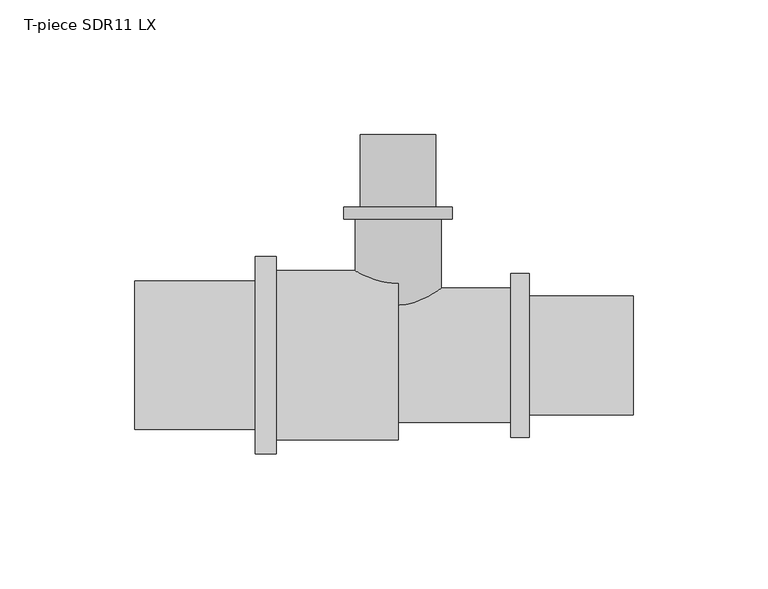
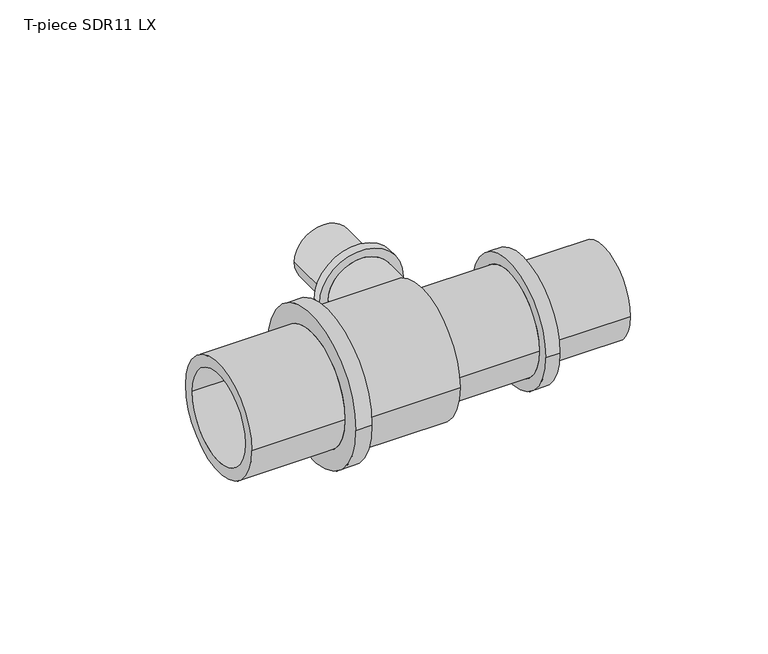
"""IFC4 building model written with IfcOpenShell, lengths in millimetres: pipe fitting geometry, T-piece SDR11 LX : T-piece LX SDR11 LX."""

from ifc_helpers import new_model, si_unit, point, frame, origin, place, context, project, spatial, polyline, circle_curve, ellipse_curve, trimmed, source, transform, mapped, element, save
from ifc_brep_helpers import plane_surface, cylinder_surface, revolved_surface, advanced_brep


def t_piece_sdr11_lx_63dd1f1d(model_context):
    return source(origin(), model_context, "Body", "AdvancedBrep", [
        advanced_brep(
        [(16.0, 1.1873608, 0.0), (-16.0, 1.1873608, 0.0), (-16.0, 50.6, 0.0), (16.0, 50.6, 0.0), (11.0, 82.0, 0.0), (-11.0, 82.0, 0.0), (-11.0, 0.0, 0.0), (11.0, 0.0, 0.0), (14.05, 55.0, 0.0), (-14.05, 55.0, 0.0), (-14.05, 82.0, 0.0), (14.05, 82.0, 0.0), (20.1, 50.6, 0.0), (-20.1, 50.6, 0.0), (-20.1, 55.0, 0.0), (20.1, 55.0, 0.0)],
        [
            (0, 1, circle_curve(frame((0.0, 1.1873608, 0.0), z_axis=(0.0, 1.0, 0.0), x_axis=(-1.0, 0.0, 0.0)), 16.0)),
            (1, 2),
            (2, 3, circle_curve(frame((0.0, 50.6, 0.0), z_axis=(0.0, -1.0, 0.0), x_axis=(-1.0, 0.0, 0.0)), 16.0)),
            (3, 0),
            (4, 5, circle_curve(frame((0.0, 82.0, 0.0), z_axis=(0.0, 1.0, 0.0), x_axis=(-1.0, 0.0, 0.0)), 11.0)),
            (5, 6),
            (6, 7, circle_curve(frame((0.0, 0.0, 0.0), z_axis=(0.0, -1.0, 0.0), x_axis=(-1.0, 0.0, 0.0)), 11.0)),
            (7, 4),
            (8, 9, circle_curve(frame((0.0, 55.0, 0.0), z_axis=(0.0, 1.0, 0.0), x_axis=(-1.0, 0.0, 0.0)), 14.05)),
            (9, 10),
            (10, 11, circle_curve(frame((0.0, 82.0, 0.0), z_axis=(0.0, -1.0, 0.0), x_axis=(-1.0, 0.0, 0.0)), 14.05)),
            (11, 8),
            (12, 13, circle_curve(frame((0.0, 50.6, 0.0), z_axis=(0.0, 1.0, 0.0), x_axis=(-1.0, 0.0, 0.0)), 20.1)),
            (13, 14),
            (14, 15, circle_curve(frame((0.0, 55.0, 0.0), z_axis=(0.0, -1.0, 0.0), x_axis=(-1.0, 0.0, 0.0)), 20.1)),
            (15, 12),
            (12, 13, circle_curve(frame((0.0, 50.6, 0.0), z_axis=(0.0, -1.0, 0.0), x_axis=(1.0, 0.0, 0.0)), 20.1)),
            (2, 3, circle_curve(frame((0.0, 50.6, 0.0), z_axis=(0.0, 1.0, 0.0), x_axis=(1.0, 0.0, 0.0)), 16.0)),
            (1, 0, circle_curve(frame((0.0, 1.1873608, 0.0), z_axis=(0.0, 1.0, 0.0), x_axis=(1.0, 0.0, 0.0)), 16.0)),
            (5, 4, circle_curve(frame((0.0, 82.0, 0.0), z_axis=(0.0, 1.0, 0.0), x_axis=(1.0, 0.0, 0.0)), 11.0)),
            (7, 6, circle_curve(frame((0.0, 0.0, 0.0), z_axis=(0.0, -1.0, 0.0), x_axis=(1.0, 0.0, 0.0)), 11.0)),
            (10, 11, circle_curve(frame((0.0, 82.0, 0.0), z_axis=(0.0, 1.0, 0.0), x_axis=(1.0, 0.0, 0.0)), 14.05)),
            (9, 8, circle_curve(frame((0.0, 55.0, 0.0), z_axis=(0.0, 1.0, 0.0), x_axis=(1.0, 0.0, 0.0)), 14.05)),
            (14, 15, circle_curve(frame((0.0, 55.0, 0.0), z_axis=(0.0, 1.0, 0.0), x_axis=(1.0, 0.0, 0.0)), 20.1)),
            (6, 1, circle_curve(frame((-6.2462802, 31.1392381, 0.0), z_axis=(0.0, 0.0, -1.0), x_axis=(0.0, -1.0, 0.0)), 31.5)),
            (0, 7, circle_curve(frame((6.2462802, 31.1392381, 0.0), z_axis=(0.0, 0.0, -1.0), x_axis=(0.0, -1.0, 0.0)), 31.5)),
        ],
        [
            cylinder_surface(frame((0.0, 0.0, 0.0), z_axis=(0.0, -1.0, 0.0), x_axis=(-1.0, 0.0, 0.0)), 16.0),
            revolved_surface(polyline([(-11.0, 0.0, 0.0), (-11.0, 82.0, 0.0)]), (0.0, 0.0, 0.0), (0.0, -1.0, 0.0)),
            cylinder_surface(frame((0.0, 0.0, 0.0), z_axis=(0.0, -1.0, 0.0), x_axis=(-1.0, 0.0, 0.0)), 14.05),
            cylinder_surface(frame((0.0, 0.0, 0.0), z_axis=(0.0, -1.0, 0.0), x_axis=(-1.0, 0.0, 0.0)), 20.1),
            plane_surface(frame((0.0, 50.6, 0.0), z_axis=(0.0, -1.0, 0.0), x_axis=(1.0, 0.0, 0.0))),
            cylinder_surface(frame((0.0, 0.0, 0.0), z_axis=(0.0, -1.0, 0.0), x_axis=(1.0, 0.0, 0.0)), 16.0),
            revolved_surface(polyline([(11.0, 0.0, 0.0), (11.0, 82.0, 0.0)]), (0.0, 0.0, 0.0), (0.0, -1.0, 0.0)),
            plane_surface(frame((0.0, 82.0, 0.0), z_axis=(0.0, 1.0, 0.0), x_axis=(1.0, 0.0, 0.0))),
            cylinder_surface(frame((0.0, 0.0, 0.0), z_axis=(0.0, -1.0, 0.0), x_axis=(1.0, 0.0, 0.0)), 14.05),
            plane_surface(frame((0.0, 55.0, 0.0), z_axis=(0.0, 1.0, 0.0), x_axis=(1.0, 0.0, 0.0))),
            cylinder_surface(frame((0.0, 0.0, 0.0), z_axis=(0.0, -1.0, 0.0), x_axis=(1.0, 0.0, 0.0)), 20.1),
            revolved_surface(trimmed(ellipse_curve(frame((-6.2462802, 31.1392381, 0.0), z_axis=(0.0, 0.0, 1.0), x_axis=(0.0, -1.0, 0.0)), 31.5, 31.5), [point((-16.0, 1.1873608, 0.0))], [point((-11.0, 0.0, 0.0))], True, "CARTESIAN"), (0.0, 0.0, 0.0), (0.0, -1.0, 0.0)),
            revolved_surface(trimmed(ellipse_curve(frame((6.2462802, 31.1392381, 0.0), z_axis=(0.0, 0.0, -1.0), x_axis=(0.0, -1.0, 0.0)), 31.5, 31.5), [point((16.0, 1.1873608, 0.0))], [point((11.0, 0.0, 0.0))], True, "CARTESIAN"), (0.0, 0.0, 0.0), (0.0, -1.0, 0.0)),
        ],
        [
            (0, [[1, 2, 3, 4]]),
            (1, [[5, 6, 7, 8]]),
            (2, [[9, 10, 11, 12]]),
            (3, [[13, 14, 15, 16]]),
            (4, [[17, -13], [18, -3]]),
            (5, [[19, -4, -18, -2]]),
            (6, [[20, -8, 21, -6]]),
            (7, [[22, -11], [-20, -5]]),
            (8, [[23, -12, -22, -10]]),
            (9, [[24, -15], [-23, -9]]),
            (10, [[-17, -16, -24, -14]]),
            (11, [[-7, 25, -1, 26]]),
            (12, [[-21, -26, -19, -25]]),
        ],
    ),
        advanced_brep(
        [(41.8, 25.0, 0.0), (41.8, -25.0, 0.0), (0.0, -25.0, 0.0), (0.0, 25.0, 0.0), (0.0, 17.6, 0.0), (0.0, -17.6, 0.0), (87.3, -17.6, 0.0), (87.3, 17.6, 0.0), (87.3, 22.1, 0.0), (87.3, -22.1, 0.0), (48.6, -22.1, 0.0), (48.6, 22.1, 0.0), (48.6, 30.45, 0.0), (48.6, -30.45, 0.0), (41.8, -30.45, 0.0), (41.8, 30.45, 0.0)],
        [
            (0, 1, circle_curve(frame((41.8, 0.0, 0.0), z_axis=(-1.0, 0.0, 0.0), x_axis=(0.0, -1.0, 0.0)), 25.0)),
            (1, 2),
            (2, 3, circle_curve(frame((0.0, 0.0, 0.0), z_axis=(1.0, 0.0, 0.0), x_axis=(0.0, -1.0, 0.0)), 25.0)),
            (3, 0),
            (4, 5, circle_curve(frame((0.0, 0.0, 0.0), z_axis=(-1.0, 0.0, 0.0), x_axis=(0.0, -1.0, 0.0)), 17.6)),
            (5, 6),
            (6, 7, circle_curve(frame((87.3, 0.0, 0.0), z_axis=(1.0, 0.0, 0.0), x_axis=(0.0, -1.0, 0.0)), 17.6)),
            (7, 4),
            (8, 9, circle_curve(frame((87.3, 0.0, 0.0), z_axis=(-1.0, 0.0, 0.0), x_axis=(0.0, -1.0, 0.0)), 22.1)),
            (9, 10),
            (10, 11, circle_curve(frame((48.6, 0.0, 0.0), z_axis=(1.0, 0.0, 0.0), x_axis=(0.0, -1.0, 0.0)), 22.1)),
            (11, 8),
            (12, 13, circle_curve(frame((48.6, 0.0, 0.0), z_axis=(-1.0, 0.0, 0.0), x_axis=(0.0, -1.0, 0.0)), 30.45)),
            (13, 14),
            (14, 15, circle_curve(frame((41.8, 0.0, 0.0), z_axis=(1.0, 0.0, 0.0), x_axis=(0.0, -1.0, 0.0)), 30.45)),
            (15, 12),
            (14, 15, circle_curve(frame((41.8, 0.0, 0.0), z_axis=(-1.0, 0.0, 0.0), x_axis=(0.0, 1.0, 0.0)), 30.45)),
            (0, 1, circle_curve(frame((41.8, 0.0, 0.0), z_axis=(1.0, 0.0, 0.0), x_axis=(0.0, 1.0, 0.0)), 25.0)),
            (3, 2, circle_curve(frame((0.0, 0.0, 0.0), z_axis=(1.0, 0.0, 0.0), x_axis=(0.0, 1.0, 0.0)), 25.0)),
            (4, 5, circle_curve(frame((0.0, 0.0, 0.0), z_axis=(1.0, 0.0, 0.0), x_axis=(0.0, 1.0, 0.0)), 17.6)),
            (7, 6, circle_curve(frame((87.3, 0.0, 0.0), z_axis=(1.0, 0.0, 0.0), x_axis=(0.0, 1.0, 0.0)), 17.6)),
            (8, 9, circle_curve(frame((87.3, 0.0, 0.0), z_axis=(1.0, 0.0, 0.0), x_axis=(0.0, 1.0, 0.0)), 22.1)),
            (11, 10, circle_curve(frame((48.6, 0.0, 0.0), z_axis=(1.0, 0.0, 0.0), x_axis=(0.0, 1.0, 0.0)), 22.1)),
            (12, 13, circle_curve(frame((48.6, 0.0, 0.0), z_axis=(1.0, 0.0, 0.0), x_axis=(0.0, 1.0, 0.0)), 30.45)),
        ],
        [
            cylinder_surface(frame((0.0, 0.0, 0.0), z_axis=(1.0, 0.0, 0.0), x_axis=(0.0, -1.0, 0.0)), 25.0),
            revolved_surface(polyline([(87.3, -17.6, 0.0), (0.0, -17.6, 0.0)]), (0.0, 0.0, 0.0), (1.0, 0.0, 0.0)),
            cylinder_surface(frame((0.0, 0.0, 0.0), z_axis=(1.0, 0.0, 0.0), x_axis=(0.0, -1.0, 0.0)), 22.1),
            cylinder_surface(frame((0.0, 0.0, 0.0), z_axis=(1.0, 0.0, 0.0), x_axis=(0.0, -1.0, 0.0)), 30.45),
            plane_surface(frame((41.8, 0.0, 0.0), z_axis=(-1.0, 0.0, 0.0), x_axis=(0.0, 1.0, 0.0))),
            cylinder_surface(frame((0.0, 0.0, 0.0), z_axis=(1.0, 0.0, 0.0), x_axis=(0.0, 1.0, 0.0)), 25.0),
            plane_surface(frame((0.0, 0.0, 0.0), z_axis=(-1.0, 0.0, 0.0), x_axis=(0.0, 1.0, 0.0))),
            revolved_surface(polyline([(87.3, 17.6, 0.0), (0.0, 17.6, 0.0)]), (0.0, 0.0, 0.0), (1.0, 0.0, 0.0)),
            plane_surface(frame((87.3, 0.0, 0.0), z_axis=(1.0, 0.0, 0.0), x_axis=(0.0, 1.0, 0.0))),
            cylinder_surface(frame((0.0, 0.0, 0.0), z_axis=(1.0, 0.0, 0.0), x_axis=(0.0, 1.0, 0.0)), 22.1),
            plane_surface(frame((48.6, 0.0, 0.0), z_axis=(1.0, 0.0, 0.0), x_axis=(0.0, 1.0, 0.0))),
            cylinder_surface(frame((0.0, 0.0, 0.0), z_axis=(1.0, 0.0, 0.0), x_axis=(0.0, 1.0, 0.0)), 30.45),
        ],
        [
            (0, [[1, 2, 3, 4]]),
            (1, [[5, 6, 7, 8]]),
            (2, [[9, 10, 11, 12]]),
            (3, [[13, 14, 15, 16]]),
            (4, [[17, -15], [18, -1]]),
            (5, [[-18, -4, 19, -2]]),
            (6, [[-19, -3], [20, -5]]),
            (7, [[-20, -8, 21, -6]]),
            (8, [[22, -9], [-21, -7]]),
            (9, [[-22, -12, 23, -10]]),
            (10, [[24, -13], [-23, -11]]),
            (11, [[-24, -16, -17, -14]]),
        ],
    ),
        advanced_brep(
        [(0.0, 31.5, 0.0), (0.0, -31.5, 0.0), (-45.3, -31.5, 0.0), (-45.3, 31.5, 0.0), (-97.8, 22.0, 0.0), (-97.8, -22.0, 0.0), (0.0, -22.0, 0.0), (0.0, 22.0, 0.0), (-53.0, 27.55, 0.0), (-53.0, -27.55, 0.0), (-97.8, -27.55, 0.0), (-97.8, 27.55, 0.0), (-45.3, 36.65, 0.0), (-45.3, -36.65, 0.0), (-53.0, -36.65, 0.0), (-53.0, 36.65, 0.0)],
        [
            (0, 1, circle_curve(frame((0.0, 0.0, 0.0), z_axis=(-1.0, 0.0, 0.0), x_axis=(0.0, -1.0, 0.0)), 31.5)),
            (1, 2),
            (2, 3, circle_curve(frame((-45.3, 0.0, 0.0), z_axis=(1.0, 0.0, 0.0), x_axis=(0.0, -1.0, 0.0)), 31.5)),
            (3, 0),
            (4, 5, circle_curve(frame((-97.8, 0.0, 0.0), z_axis=(-1.0, 0.0, 0.0), x_axis=(0.0, -1.0, 0.0)), 22.0)),
            (5, 6),
            (6, 7, circle_curve(frame((0.0, 0.0, 0.0), z_axis=(1.0, 0.0, 0.0), x_axis=(0.0, -1.0, 0.0)), 22.0)),
            (7, 4),
            (8, 9, circle_curve(frame((-53.0, 0.0, 0.0), z_axis=(-1.0, 0.0, 0.0), x_axis=(0.0, -1.0, 0.0)), 27.55)),
            (9, 10),
            (10, 11, circle_curve(frame((-97.8, 0.0, 0.0), z_axis=(1.0, 0.0, 0.0), x_axis=(0.0, -1.0, 0.0)), 27.55)),
            (11, 8),
            (12, 13, circle_curve(frame((-45.3, 0.0, 0.0), z_axis=(-1.0, 0.0, 0.0), x_axis=(0.0, -1.0, 0.0)), 36.65)),
            (13, 14),
            (14, 15, circle_curve(frame((-53.0, 0.0, 0.0), z_axis=(1.0, 0.0, 0.0), x_axis=(0.0, -1.0, 0.0)), 36.65)),
            (15, 12),
            (12, 13, circle_curve(frame((-45.3, 0.0, 0.0), z_axis=(1.0, 0.0, 0.0), x_axis=(0.0, 1.0, 0.0)), 36.65)),
            (2, 3, circle_curve(frame((-45.3, 0.0, 0.0), z_axis=(-1.0, 0.0, 0.0), x_axis=(0.0, 1.0, 0.0)), 31.5)),
            (1, 0, circle_curve(frame((0.0, 0.0, 0.0), z_axis=(-1.0, 0.0, 0.0), x_axis=(0.0, 1.0, 0.0)), 31.5)),
            (6, 7, circle_curve(frame((0.0, 0.0, 0.0), z_axis=(-1.0, 0.0, 0.0), x_axis=(0.0, 1.0, 0.0)), 22.0)),
            (5, 4, circle_curve(frame((-97.8, 0.0, 0.0), z_axis=(-1.0, 0.0, 0.0), x_axis=(0.0, 1.0, 0.0)), 22.0)),
            (10, 11, circle_curve(frame((-97.8, 0.0, 0.0), z_axis=(-1.0, 0.0, 0.0), x_axis=(0.0, 1.0, 0.0)), 27.55)),
            (9, 8, circle_curve(frame((-53.0, 0.0, 0.0), z_axis=(-1.0, 0.0, 0.0), x_axis=(0.0, 1.0, 0.0)), 27.55)),
            (14, 15, circle_curve(frame((-53.0, 0.0, 0.0), z_axis=(-1.0, 0.0, 0.0), x_axis=(0.0, 1.0, 0.0)), 36.65)),
        ],
        [
            cylinder_surface(frame((0.0, 0.0, 0.0), z_axis=(1.0, 0.0, 0.0), x_axis=(0.0, -1.0, 0.0)), 31.5),
            revolved_surface(polyline([(0.0, -22.0, 0.0), (-97.8, -22.0, 0.0)]), (0.0, 0.0, 0.0), (1.0, 0.0, 0.0)),
            cylinder_surface(frame((0.0, 0.0, 0.0), z_axis=(1.0, 0.0, 0.0), x_axis=(0.0, -1.0, 0.0)), 27.55),
            cylinder_surface(frame((0.0, 0.0, 0.0), z_axis=(1.0, 0.0, 0.0), x_axis=(0.0, -1.0, 0.0)), 36.65),
            plane_surface(frame((-45.3, 0.0, 0.0), z_axis=(1.0, 0.0, 0.0), x_axis=(0.0, 1.0, 0.0))),
            cylinder_surface(frame((0.0, 0.0, 0.0), z_axis=(1.0, 0.0, 0.0), x_axis=(0.0, 1.0, 0.0)), 31.5),
            plane_surface(frame((0.0, 0.0, 0.0), z_axis=(1.0, 0.0, 0.0), x_axis=(0.0, 1.0, 0.0))),
            revolved_surface(polyline([(0.0, 22.0, 0.0), (-97.8, 22.0, 0.0)]), (0.0, 0.0, 0.0), (1.0, 0.0, 0.0)),
            plane_surface(frame((-97.8, 0.0, 0.0), z_axis=(-1.0, 0.0, 0.0), x_axis=(0.0, 1.0, 0.0))),
            cylinder_surface(frame((0.0, 0.0, 0.0), z_axis=(1.0, 0.0, 0.0), x_axis=(0.0, 1.0, 0.0)), 27.55),
            plane_surface(frame((-53.0, 0.0, 0.0), z_axis=(-1.0, 0.0, 0.0), x_axis=(0.0, 1.0, 0.0))),
            cylinder_surface(frame((0.0, 0.0, 0.0), z_axis=(1.0, 0.0, 0.0), x_axis=(0.0, 1.0, 0.0)), 36.65),
        ],
        [
            (0, [[1, 2, 3, 4]]),
            (1, [[5, 6, 7, 8]]),
            (2, [[9, 10, 11, 12]]),
            (3, [[13, 14, 15, 16]]),
            (4, [[17, -13], [18, -3]]),
            (5, [[19, -4, -18, -2]]),
            (6, [[-19, -1], [20, -7]]),
            (7, [[21, -8, -20, -6]]),
            (8, [[22, -11], [-21, -5]]),
            (9, [[23, -12, -22, -10]]),
            (10, [[24, -15], [-23, -9]]),
            (11, [[-17, -16, -24, -14]]),
        ],
    ),
    ])


if __name__ == "__main__":
    model = new_model("IFC4")
    model_context = context("Model", 3, world=origin())
    ifc_project = project(units=[si_unit("LENGTHUNIT", "METRE", prefix="MILLI")], contexts=[model_context])
    site = spatial("IfcSite", under=ifc_project)
    building = spatial("IfcBuilding", under=site)
    placement = place(None, origin())
    t_piece_sdr11_lx_shape = t_piece_sdr11_lx_63dd1f1d(model_context)
    element("IfcPipeFitting", 1, ObjectType="T-piece SDR11 LX : T-piece LX SDR11 LX", at=placement, inside=building, context=model_context, shape_type="MappedRepresentation", body=[
        mapped(t_piece_sdr11_lx_shape, transform((0.0, 0.0, 0.0), x_axis=(1.0, 0.0, 0.0), y_axis=(0.0, 1.0, 0.0), z_axis=(0.0, 0.0, 1.0))),
    ])
    save(model, "model.ifc")
